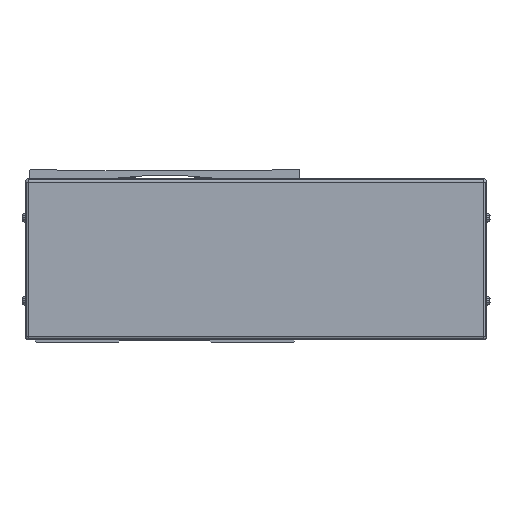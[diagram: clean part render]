
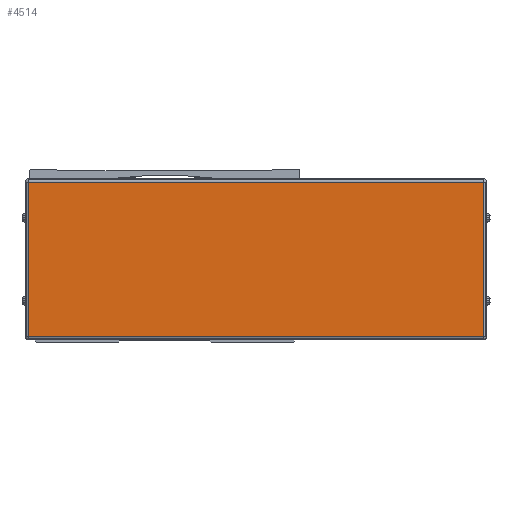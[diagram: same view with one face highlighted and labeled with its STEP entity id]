
A CAD part, front view. The second image highlights one B-rep face of the part: STEP entity #4514.
In plain terms, the highlighted planar face has unit normal (0, -1, 0).
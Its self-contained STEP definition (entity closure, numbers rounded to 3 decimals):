
#4514=ADVANCED_FACE('',(#10790),#10791,.T.);
#10790=FACE_OUTER_BOUND('',#19899,.T.);
#10791=PLANE('',#19900);
#19899=EDGE_LOOP('',(#34054,#34055,#34056,#34057));
#19900=AXIS2_PLACEMENT_3D('',#34058,#34059,#34060);
#34054=ORIENTED_EDGE('',*,*,#54876,.F.);
#34055=ORIENTED_EDGE('',*,*,#55450,.F.);
#34056=ORIENTED_EDGE('',*,*,#55451,.F.);
#34057=ORIENTED_EDGE('',*,*,#53646,.F.);
#34058=CARTESIAN_POINT('',(-545.,-272.778,-2.));
#34059=DIRECTION('',(0.,-1.0,0.));
#34060=DIRECTION('',(1.0,0.,0.));
#53646=EDGE_CURVE('',#64827,#64829,#64830,.T.);
#54876=EDGE_CURVE('',#66853,#64827,#66855,.T.);
#55450=EDGE_CURVE('',#67754,#66853,#67755,.T.);
#55451=EDGE_CURVE('',#64829,#67754,#67756,.T.);
#64827=VERTEX_POINT('',#80536);
#64829=VERTEX_POINT('',#80538);
#64830=LINE('',#80539,#80540);
#66853=VERTEX_POINT('',#83503);
#66855=LINE('',#83505,#83506);
#67754=VERTEX_POINT('',#84814);
#67755=LINE('',#84815,#84816);
#67756=LINE('',#84817,#84818);
#80536=CARTESIAN_POINT('',(-407.9,-272.778,44.5));
#80538=CARTESIAN_POINT('',(-407.9,-272.778,-48.5));
#80539=CARTESIAN_POINT('',(-407.9,-272.778,-2.));
#80540=VECTOR('',#98782,10.0);
#83503=CARTESIAN_POINT('',(-682.1,-272.778,44.5));
#83505=CARTESIAN_POINT('',(-545.,-272.778,44.5));
#83506=VECTOR('',#100276,10.0);
#84814=CARTESIAN_POINT('',(-682.1,-272.778,-48.5));
#84815=CARTESIAN_POINT('',(-682.1,-272.778,-2.));
#84816=VECTOR('',#101079,10.0);
#84817=CARTESIAN_POINT('',(-545.,-272.778,-48.5));
#84818=VECTOR('',#101080,10.0);
#98782=DIRECTION('',(0.,0.,-1.0));
#100276=DIRECTION('',(1.0,0.,0.));
#101079=DIRECTION('',(0.,0.,1.0));
#101080=DIRECTION('',(-1.0,0.,0.));
